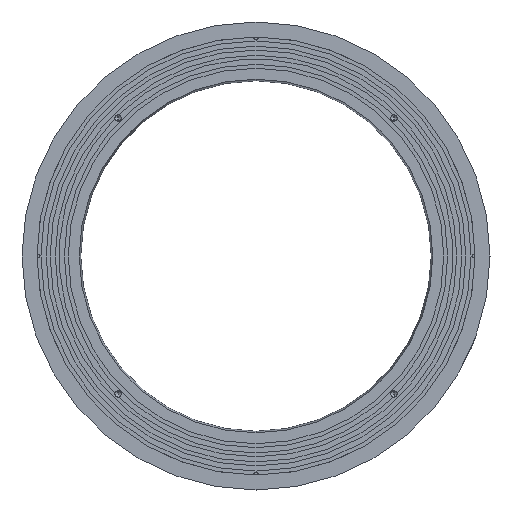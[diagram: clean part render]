
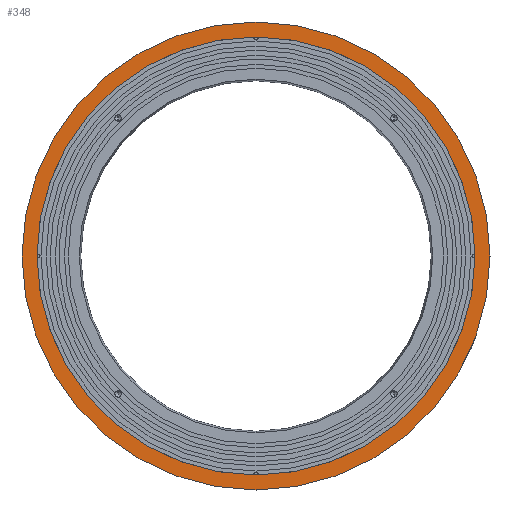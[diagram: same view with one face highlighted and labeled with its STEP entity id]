
A CAD part, front view. The second image highlights one B-rep face of the part: STEP entity #348.
In plain terms, the highlighted planar face has unit normal (0, -1, 0).
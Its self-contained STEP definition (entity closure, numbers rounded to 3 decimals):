
#25 = VERTEX_POINT ( 'NONE', #2446 ) ;
#48 = CIRCLE ( 'NONE', #282, 90. ) ;
#58 = CARTESIAN_POINT ( 'NONE',  ( 0., 0., 84.218 ) ) ;
#95 = EDGE_CURVE ( 'NONE', #25, #1948, #1566, .T. ) ;
#201 = VERTEX_POINT ( 'NONE', #2526 ) ;
#282 = AXIS2_PLACEMENT_3D ( 'NONE', #765, #331, #2880 ) ;
#320 = FACE_OUTER_BOUND ( 'NONE', #1976, .T. ) ;
#331 = DIRECTION ( 'NONE',  ( 0., -1., 0. ) ) ;
#348 = ADVANCED_FACE ( 'NONE', ( #320, #442 ), #1836, .T. ) ;
#442 = FACE_BOUND ( 'NONE', #2222, .T. ) ;
#508 = CARTESIAN_POINT ( 'NONE',  ( 0., 0., 0. ) ) ;
#639 = DIRECTION ( 'NONE',  ( 0., 0., -1. ) ) ;
#737 = DIRECTION ( 'NONE',  ( 0., 0., -1. ) ) ;
#765 = CARTESIAN_POINT ( 'NONE',  ( 0., 0., 0. ) ) ;
#834 = CARTESIAN_POINT ( 'NONE',  ( 0., 0., 0. ) ) ;
#936 = CARTESIAN_POINT ( 'NONE',  ( 0., 0., -90. ) ) ;
#1047 = DIRECTION ( 'NONE',  ( 0., 0., -1. ) ) ;
#1053 = ORIENTED_EDGE ( 'NONE', *, *, #1688, .F. ) ;
#1219 = CIRCLE ( 'NONE', #1992, 90. ) ;
#1268 = ORIENTED_EDGE ( 'NONE', *, *, #95, .F. ) ;
#1287 = CARTESIAN_POINT ( 'NONE',  ( 0., 0., 0. ) ) ;
#1389 = DIRECTION ( 'NONE',  ( 0., 0., -1. ) ) ;
#1535 = DIRECTION ( 'NONE',  ( 0., -1., 0. ) ) ;
#1566 = CIRCLE ( 'NONE', #2895, 84.218 ) ;
#1602 = CARTESIAN_POINT ( 'NONE',  ( 84.218, 0., 0. ) ) ;
#1688 = EDGE_CURVE ( 'NONE', #1948, #25, #2499, .T. ) ;
#1701 = EDGE_CURVE ( 'NONE', #2550, #201, #48, .T. ) ;
#1779 = DIRECTION ( 'NONE',  ( 0., -1., 0. ) ) ;
#1824 = DIRECTION ( 'NONE',  ( 0., -1., 0. ) ) ;
#1836 = PLANE ( 'NONE',  #2153 ) ;
#1848 = EDGE_CURVE ( 'NONE', #201, #2550, #1219, .T. ) ;
#1948 = VERTEX_POINT ( 'NONE', #58 ) ;
#1976 = EDGE_LOOP ( 'NONE', ( #1997, #2370 ) ) ;
#1992 = AXIS2_PLACEMENT_3D ( 'NONE', #834, #1779, #639 ) ;
#1997 = ORIENTED_EDGE ( 'NONE', *, *, #1701, .T. ) ;
#2153 = AXIS2_PLACEMENT_3D ( 'NONE', #1602, #1824, #1389 ) ;
#2222 = EDGE_LOOP ( 'NONE', ( #1268, #1053 ) ) ;
#2344 = DIRECTION ( 'NONE',  ( 0., -1., 0. ) ) ;
#2370 = ORIENTED_EDGE ( 'NONE', *, *, #1848, .T. ) ;
#2446 = CARTESIAN_POINT ( 'NONE',  ( 0., 0., -84.218 ) ) ;
#2499 = CIRCLE ( 'NONE', #2617, 84.218 ) ;
#2526 = CARTESIAN_POINT ( 'NONE',  ( 0., 0., 90. ) ) ;
#2550 = VERTEX_POINT ( 'NONE', #936 ) ;
#2617 = AXIS2_PLACEMENT_3D ( 'NONE', #1287, #1535, #1047 ) ;
#2880 = DIRECTION ( 'NONE',  ( 0., 0., -1. ) ) ;
#2895 = AXIS2_PLACEMENT_3D ( 'NONE', #508, #2344, #737 ) ;
